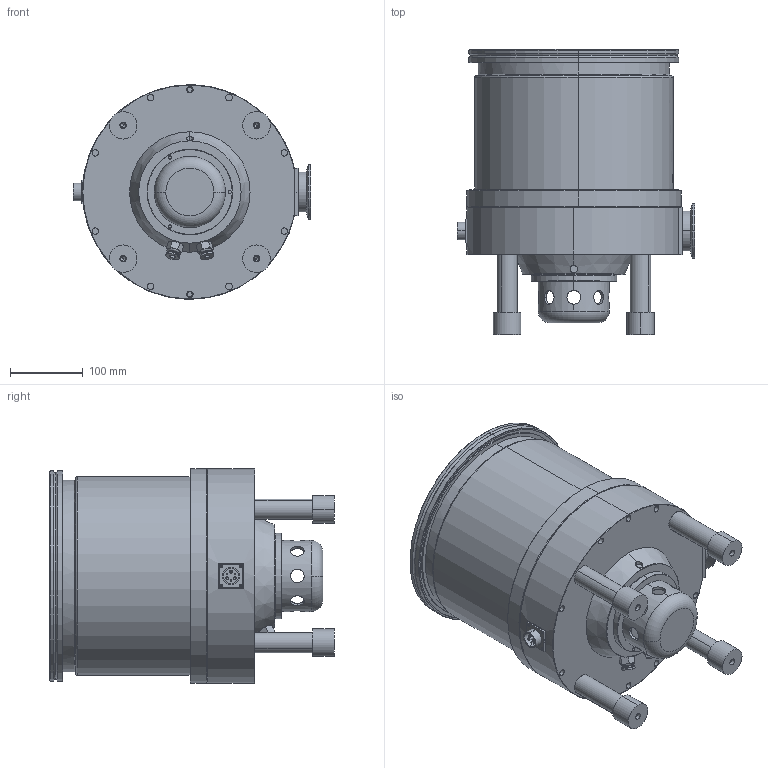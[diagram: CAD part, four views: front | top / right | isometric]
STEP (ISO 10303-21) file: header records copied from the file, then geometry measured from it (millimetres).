
FILE_DESCRIPTION (( 'STEP AP203' ), '1' );
FILE_NAME ('ISO1600J-00W.STEP', '2025-03-29T08:08:00', ( 'User' ), ( 'China' ), 'SwSTEP 2.0', 'SolidWorks 2016', '' );
FILE_SCHEMA (( 'CONFIG_CONTROL_DESIGN' ));
Length unit declared in the file: millimetre
Products named in the file (12): SJJTB-07-01A_1; SJJTB-07-00H_1; JTFB1600-01W_1; JTFB1600-03_2; JTFB1600-17_1; JTFB1600J-18-01-01｣ﾗ; JTFB1600J-18-01-00｣ﾗ; JTFB1600J-18-00｣ﾗ; 萇埭諉芛_1; 1600掙虯蝶杶_1; 阨郲_1; ISO1600J-00W
Assembly tree (18 placements, depth 4):
  ISO1600J-00W
    SJJTB-07-00H_1
      SJJTB-07-01A_1
    JTFB1600-01W_1
    JTFB1600-03_2
    JTFB1600-17_1  x4
    JTFB1600J-18-00｣ﾗ
      JTFB1600J-18-01-00｣ﾗ
        JTFB1600J-18-01-01｣ﾗ
    萇埭諉芛_1
    1600掙虯蝶杶_1  x4
    阨郲_1  x2
Bounding box: 326.82 x 392.5 x 296 mm (x, y, z)
Volume: 18596680.8 mm3; surface area: 782716.6 mm2
Topology: 15 solids, 15 shells, 739 faces, 1801 edges, 1144 vertices
Faces by surface type: cylinder 286, plane 180, bspline 141, cone 108, torus 24
Entity records: 45441 total; most frequent: CARTESIAN_POINT 30185, ORIENTED_EDGE 3018, DIRECTION 2529, EDGE_CURVE 1509, AXIS2_PLACEMENT_3D 1060, VERTEX_POINT 978, EDGE_LOOP 767, ADVANCED_FACE 625
